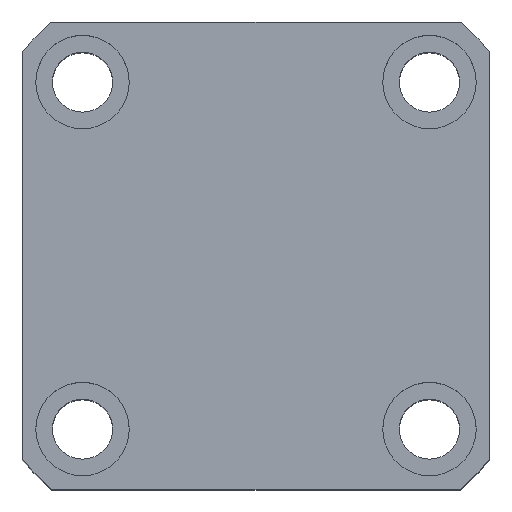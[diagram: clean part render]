
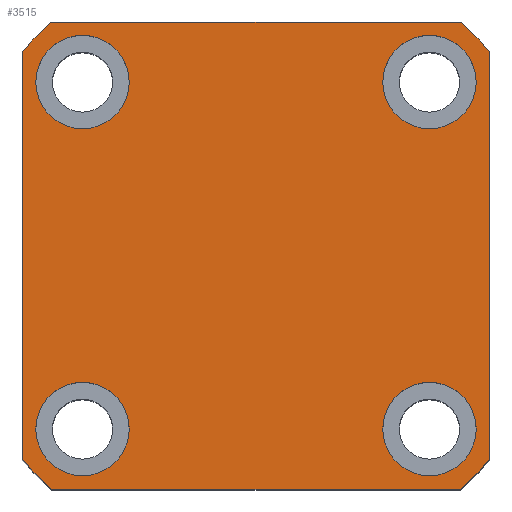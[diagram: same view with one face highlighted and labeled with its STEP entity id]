
A CAD part, top view. The second image highlights one B-rep face of the part: STEP entity #3515.
In plain terms, the highlighted planar face has unit normal (0, 0, 1).
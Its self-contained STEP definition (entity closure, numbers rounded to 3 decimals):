
#2638=PLANE('',#11410);
#3362=FACE_BOUND('',#4439,.T.);
#3363=FACE_BOUND('',#4440,.T.);
#3364=FACE_BOUND('',#4441,.T.);
#3365=FACE_BOUND('',#4442,.T.);
#3366=FACE_BOUND('',#4443,.T.);
#3515=ADVANCED_FACE('',(#3362,#3363,#3364,#3365,#3366),#2638,.T.);
#4439=EDGE_LOOP('',(#7076));
#4440=EDGE_LOOP('',(#7077));
#4441=EDGE_LOOP('',(#7078));
#4442=EDGE_LOOP('',(#7079));
#4443=EDGE_LOOP('',(#7080,#7081,#7082,#7083,#7084,#7085,#7086,#7087));
#4874=LINE('',#18146,#5685);
#4880=LINE('',#18374,#5691);
#4884=LINE('',#18383,#5695);
#4888=LINE('',#18392,#5699);
#5685=VECTOR('',#11896,1.);
#5691=VECTOR('',#12026,1.);
#5695=VECTOR('',#12032,1.);
#5699=VECTOR('',#12038,1.);
#6649=CIRCLE('',#11391,7.);
#6651=CIRCLE('',#11394,7.);
#6653=CIRCLE('',#11397,7.);
#6655=CIRCLE('',#11400,7.);
#6657=CIRCLE('',#11406,46.5);
#6658=CIRCLE('',#11407,46.5);
#6659=CIRCLE('',#11408,46.5);
#6660=CIRCLE('',#11409,46.5);
#7076=ORIENTED_EDGE('',*,*,#10170,.F.);
#7077=ORIENTED_EDGE('',*,*,#10172,.F.);
#7078=ORIENTED_EDGE('',*,*,#10174,.F.);
#7079=ORIENTED_EDGE('',*,*,#10176,.F.);
#7080=ORIENTED_EDGE('',*,*,#10179,.T.);
#7081=ORIENTED_EDGE('',*,*,#10190,.T.);
#7082=ORIENTED_EDGE('',*,*,#10183,.T.);
#7083=ORIENTED_EDGE('',*,*,#10191,.T.);
#7084=ORIENTED_EDGE('',*,*,#10131,.T.);
#7085=ORIENTED_EDGE('',*,*,#10192,.T.);
#7086=ORIENTED_EDGE('',*,*,#10187,.T.);
#7087=ORIENTED_EDGE('',*,*,#10193,.T.);
#9252=VERTEX_POINT('',#18144);
#9254=VERTEX_POINT('',#18147);
#9291=VERTEX_POINT('',#18352);
#9293=VERTEX_POINT('',#18357);
#9295=VERTEX_POINT('',#18362);
#9297=VERTEX_POINT('',#18367);
#9299=VERTEX_POINT('',#18372);
#9301=VERTEX_POINT('',#18375);
#9303=VERTEX_POINT('',#18381);
#9305=VERTEX_POINT('',#18384);
#9307=VERTEX_POINT('',#18390);
#9309=VERTEX_POINT('',#18393);
#10131=EDGE_CURVE('',#9254,#9252,#4874,.T.);
#10170=EDGE_CURVE('',#9291,#9291,#6649,.T.);
#10172=EDGE_CURVE('',#9293,#9293,#6651,.T.);
#10174=EDGE_CURVE('',#9295,#9295,#6653,.T.);
#10176=EDGE_CURVE('',#9297,#9297,#6655,.T.);
#10179=EDGE_CURVE('',#9301,#9299,#4880,.T.);
#10183=EDGE_CURVE('',#9305,#9303,#4884,.T.);
#10187=EDGE_CURVE('',#9309,#9307,#4888,.T.);
#10190=EDGE_CURVE('',#9299,#9305,#6657,.T.);
#10191=EDGE_CURVE('',#9303,#9254,#6658,.T.);
#10192=EDGE_CURVE('',#9252,#9309,#6659,.T.);
#10193=EDGE_CURVE('',#9307,#9301,#6660,.T.);
#11391=AXIS2_PLACEMENT_3D('',#18351,#12001,#12002);
#11394=AXIS2_PLACEMENT_3D('',#18356,#12007,#12008);
#11397=AXIS2_PLACEMENT_3D('',#18361,#12013,#12014);
#11400=AXIS2_PLACEMENT_3D('',#18366,#12019,#12020);
#11406=AXIS2_PLACEMENT_3D('',#18398,#12043,#12044);
#11407=AXIS2_PLACEMENT_3D('',#18399,#12045,#12046);
#11408=AXIS2_PLACEMENT_3D('',#18400,#12047,#12048);
#11409=AXIS2_PLACEMENT_3D('',#18401,#12049,#12050);
#11410=AXIS2_PLACEMENT_3D('',#18402,#12051,#12052);
#11896=DIRECTION('',(0.,-1.,0.));
#12001=DIRECTION('',(0.,0.,1.));
#12002=DIRECTION('',(1.,0.,0.));
#12007=DIRECTION('',(0.,0.,1.));
#12008=DIRECTION('',(1.,0.,0.));
#12013=DIRECTION('',(0.,0.,1.));
#12014=DIRECTION('',(1.,0.,0.));
#12019=DIRECTION('',(0.,0.,1.));
#12020=DIRECTION('',(1.,0.,0.));
#12026=DIRECTION('',(0.,1.,0.));
#12032=DIRECTION('',(-1.,0.,0.));
#12038=DIRECTION('',(1.,0.,0.));
#12043=DIRECTION('',(0.,0.,1.));
#12044=DIRECTION('',(1.,0.,0.));
#12045=DIRECTION('',(0.,0.,1.));
#12046=DIRECTION('',(1.,0.,0.));
#12047=DIRECTION('',(0.,0.,1.));
#12048=DIRECTION('',(1.,0.,0.));
#12049=DIRECTION('',(0.,0.,1.));
#12050=DIRECTION('',(1.,0.,0.));
#12051=DIRECTION('',(0.,0.,1.));
#12052=DIRECTION('',(-1.,0.,0.));
#18144=CARTESIAN_POINT('',(-80.891,-29.263,90.532));
#18146=CARTESIAN_POINT('',(-80.891,36.351,90.532));
#18147=CARTESIAN_POINT('',(-80.891,31.966,90.532));
#18351=CARTESIAN_POINT('',(-71.891,-24.649,90.532));
#18352=CARTESIAN_POINT('',(-64.891,-24.649,90.532));
#18356=CARTESIAN_POINT('',(-19.891,-24.649,90.532));
#18357=CARTESIAN_POINT('',(-12.891,-24.649,90.532));
#18361=CARTESIAN_POINT('',(-19.891,27.351,90.532));
#18362=CARTESIAN_POINT('',(-12.891,27.351,90.532));
#18366=CARTESIAN_POINT('',(-71.891,27.351,90.532));
#18367=CARTESIAN_POINT('',(-64.891,27.351,90.532));
#18372=CARTESIAN_POINT('',(-10.891,31.966,90.532));
#18374=CARTESIAN_POINT('',(-10.891,36.351,90.532));
#18375=CARTESIAN_POINT('',(-10.891,-29.263,90.532));
#18381=CARTESIAN_POINT('',(-76.506,36.351,90.532));
#18383=CARTESIAN_POINT('',(-80.891,36.351,90.532));
#18384=CARTESIAN_POINT('',(-15.277,36.351,90.532));
#18390=CARTESIAN_POINT('',(-15.277,-33.649,90.532));
#18392=CARTESIAN_POINT('',(-80.891,-33.649,90.532));
#18393=CARTESIAN_POINT('',(-76.506,-33.649,90.532));
#18398=CARTESIAN_POINT('',(-45.891,1.351,90.532));
#18399=CARTESIAN_POINT('',(-45.891,1.351,90.532));
#18400=CARTESIAN_POINT('',(-45.891,1.351,90.532));
#18401=CARTESIAN_POINT('',(-45.891,1.351,90.532));
#18402=CARTESIAN_POINT('',(-45.891,1.351,90.532));
